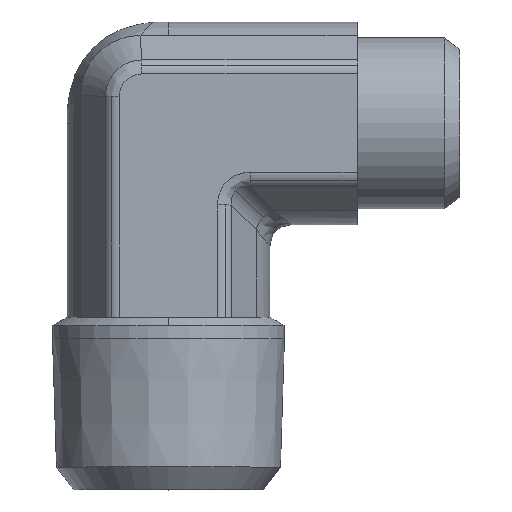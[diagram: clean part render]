
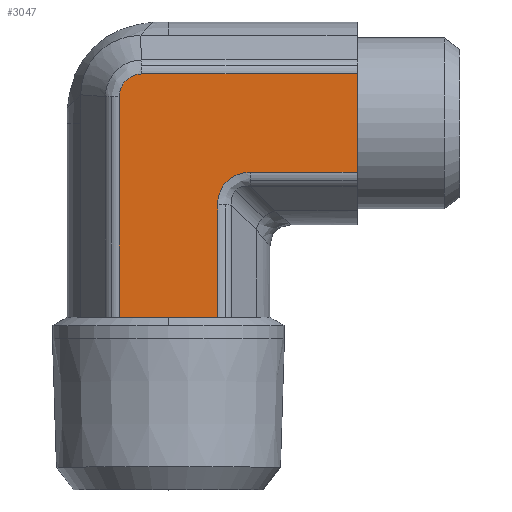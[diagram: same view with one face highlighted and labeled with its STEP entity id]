
A CAD part, top view. The second image highlights one B-rep face of the part: STEP entity #3047.
In plain terms, the highlighted planar face has unit normal (0, 0, 1) as drawn and (0, -1, 0) by its records, which use the part's own axes.
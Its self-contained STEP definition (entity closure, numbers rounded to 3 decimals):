
#319=CARTESIAN_POINT('',(3.092,-9.4,4.561));
#320=VERTEX_POINT('',#319);
#328=CARTESIAN_POINT('',(13.5,-9.4,4.561));
#329=VERTEX_POINT('',#328);
#330=CARTESIAN_POINT('',(3.092,-9.4,4.561));
#331=DIRECTION('',(1.0,0.0,0.0));
#332=VECTOR('',#331,10.408);
#333=LINE('',#330,#332);
#334=EDGE_CURVE('',#320,#329,#333,.T.);
#443=CARTESIAN_POINT('',(-9.061,-9.4,-2.461));
#444=VERTEX_POINT('',#443);
#452=CARTESIAN_POINT('',(-9.061,-9.4,17.5));
#453=VERTEX_POINT('',#452);
#454=CARTESIAN_POINT('',(-9.061,-9.4,-2.461));
#455=DIRECTION('',(0.0,0.0,1.0));
#456=VECTOR('',#455,19.961);
#457=LINE('',#454,#456);
#458=EDGE_CURVE('',#444,#453,#457,.T.);
#629=CARTESIAN_POINT('',(13.5,-9.4,0.));
#630=VERTEX_POINT('',#629);
#1996=CARTESIAN_POINT('',(0.061,-9.4,17.5));
#1997=VERTEX_POINT('',#1996);
#1998=CARTESIAN_POINT('',(0.061,-9.4,17.5));
#1999=DIRECTION('',(-1.0,0.0,0.0));
#2000=VECTOR('',#1999,9.122);
#2001=LINE('',#1998,#2000);
#2002=EDGE_CURVE('',#1997,#453,#2001,.T.);
#2351=CARTESIAN_POINT('',(13.5,-9.4,-4.561));
#2352=VERTEX_POINT('',#2351);
#2353=CARTESIAN_POINT('',(13.5,-9.4,-4.561));
#2354=DIRECTION('',(0.0,0.0,1.0));
#2355=VECTOR('',#2354,4.561);
#2356=LINE('',#2353,#2355);
#2357=EDGE_CURVE('',#2352,#630,#2356,.T.);
#2398=CARTESIAN_POINT('',(13.5,-9.4,0.));
#2399=DIRECTION('',(0.0,0.0,1.0));
#2400=VECTOR('',#2399,4.561);
#2401=LINE('',#2398,#2400);
#2402=EDGE_CURVE('',#630,#329,#2401,.T.);
#2732=CARTESIAN_POINT('',(-6.961,-9.4,-4.561));
#2733=VERTEX_POINT('',#2732);
#2741=CARTESIAN_POINT('',(-9.061,-9.4,-2.461));
#2742=CARTESIAN_POINT('',(-9.061,-9.4,-2.598));
#2743=CARTESIAN_POINT('',(-9.048,-9.4,-2.736));
#2744=CARTESIAN_POINT('',(-8.977,-9.4,-3.088));
#2745=CARTESIAN_POINT('',(-8.901,-9.4,-3.296));
#2746=CARTESIAN_POINT('',(-8.62,-9.4,-3.796));
#2747=CARTESIAN_POINT('',(-8.37,-9.4,-4.058));
#2748=CARTESIAN_POINT('',(-7.737,-9.4,-4.451));
#2749=CARTESIAN_POINT('',(-7.349,-9.4,-4.561));
#2750=CARTESIAN_POINT('',(-6.961,-9.4,-4.561));
#2751=B_SPLINE_CURVE_WITH_KNOTS('',3,(#2741,#2742,#2743,#2744,#2745,#2746,#2747,#2748,#2749,#2750),.UNSPECIFIED.,.F.,.U.,(4,2,2,2,4),(-3.281,-2.871,-2.215,-1.165,0.0),.UNSPECIFIED.);
#2752=EDGE_CURVE('',#2733,#444,#2751,.F.);
#2779=CARTESIAN_POINT('',(13.5,-9.4,-4.561));
#2780=DIRECTION('',(-1.0,0.0,0.0));
#2781=VECTOR('',#2780,20.461);
#2782=LINE('',#2779,#2781);
#2783=EDGE_CURVE('',#2352,#2733,#2782,.T.);
#2915=CARTESIAN_POINT('',(0.061,-9.4,7.592));
#2916=VERTEX_POINT('',#2915);
#2917=CARTESIAN_POINT('',(0.061,-9.4,17.5));
#2918=DIRECTION('',(0.0,0.0,-1.0));
#2919=VECTOR('',#2918,9.908);
#2920=LINE('',#2917,#2919);
#2921=EDGE_CURVE('',#1997,#2916,#2920,.T.);
#3004=CARTESIAN_POINT('',(4.103,-9.4,8.603));
#3005=DIRECTION('',(0.,-1.0,0.));
#3006=DIRECTION('',(-0.707,0.,-0.707));
#3007=AXIS2_PLACEMENT_3D('',#3004,#3005,#3006);
#3008=ELLIPSE('',#3007,4.518,3.5);
#3009=EDGE_CURVE('',#2916,#320,#3008,.T.);
#3031=CARTESIAN_POINT('',(-4.5,-9.4,-3.175));
#3032=DIRECTION('',(0.0,-1.0,0.0));
#3033=DIRECTION('',(0.0,0.0,-1.0));
#3034=AXIS2_PLACEMENT_3D('',#3031,#3032,#3033);
#3035=PLANE('',#3034);
#3036=ORIENTED_EDGE('',*,*,#2002,.T.);
#3037=ORIENTED_EDGE('',*,*,#458,.F.);
#3038=ORIENTED_EDGE('',*,*,#2752,.F.);
#3039=ORIENTED_EDGE('',*,*,#2783,.F.);
#3040=ORIENTED_EDGE('',*,*,#2357,.T.);
#3041=ORIENTED_EDGE('',*,*,#2402,.T.);
#3042=ORIENTED_EDGE('',*,*,#334,.F.);
#3043=ORIENTED_EDGE('',*,*,#3009,.F.);
#3044=ORIENTED_EDGE('',*,*,#2921,.F.);
#3045=EDGE_LOOP('',(#3036,#3037,#3038,#3039,#3040,#3041,#3042,#3043,#3044));
#3046=FACE_OUTER_BOUND('',#3045,.T.);
#3047=ADVANCED_FACE('',(#3046),#3035,.T.);
